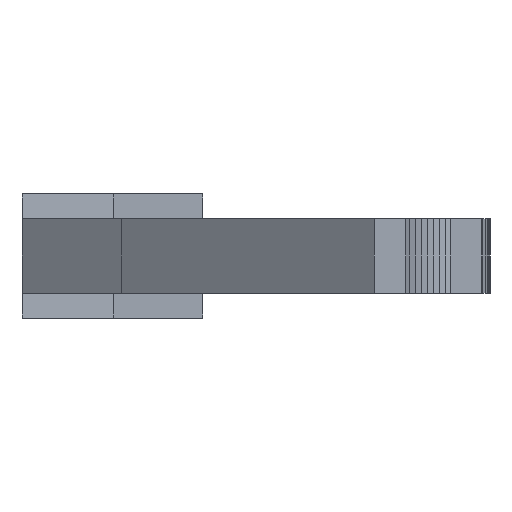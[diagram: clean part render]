
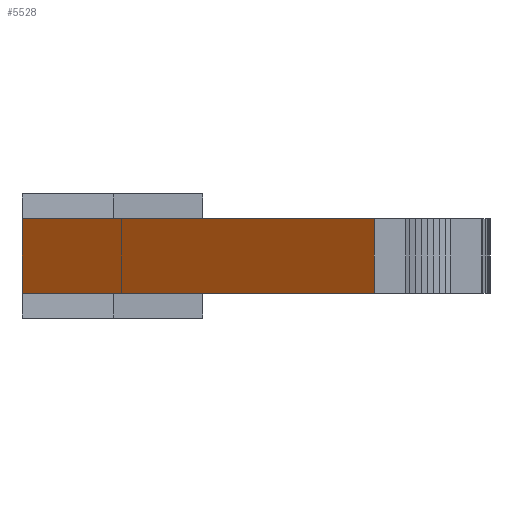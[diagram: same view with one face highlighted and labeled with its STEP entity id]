
A CAD part, left-side view. The second image highlights one B-rep face of the part: STEP entity #5528.
In plain terms, the highlighted planar face has unit normal (-0.79, 0.613, 0).
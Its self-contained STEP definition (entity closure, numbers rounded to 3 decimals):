
#44 = PLANE('',#45);
#45 = AXIS2_PLACEMENT_3D('',#46,#47,#48);
#46 = CARTESIAN_POINT('',(16.562,19.781,-4.5));
#47 = DIRECTION('',(-0.,0.,-1.));
#48 = DIRECTION('',(1.,0.,0.));
#100 = PLANE('',#101);
#101 = AXIS2_PLACEMENT_3D('',#102,#103,#104);
#102 = CARTESIAN_POINT('',(16.562,19.781,4.5));
#103 = DIRECTION('',(-0.,0.,-1.));
#104 = DIRECTION('',(1.,0.,0.));
#637 = VERTEX_POINT('',#638);
#638 = CARTESIAN_POINT('',(26.,49.,-4.5));
#664 = EDGE_CURVE('',#637,#665,#667,.T.);
#665 = VERTEX_POINT('',#666);
#666 = CARTESIAN_POINT('',(-7.,6.5,-4.5));
#667 = SURFACE_CURVE('',#668,(#672,#679),.PCURVE_S1.);
#668 = LINE('',#669,#670);
#669 = CARTESIAN_POINT('',(26.,49.,-4.5));
#670 = VECTOR('',#671,1.);
#671 = DIRECTION('',(-0.613,-0.79,-0.));
#672 = PCURVE('',#44,#673);
#673 = DEFINITIONAL_REPRESENTATION('',(#674),#678);
#674 = LINE('',#675,#676);
#675 = CARTESIAN_POINT('',(9.438,-29.219));
#676 = VECTOR('',#677,1.);
#677 = DIRECTION('',(-0.613,0.79));
#678 = ( GEOMETRIC_REPRESENTATION_CONTEXT(2) 
PARAMETRIC_REPRESENTATION_CONTEXT() REPRESENTATION_CONTEXT('2D SPACE',''
  ) );
#679 = PCURVE('',#680,#685);
#680 = PLANE('',#681);
#681 = AXIS2_PLACEMENT_3D('',#682,#683,#684);
#682 = CARTESIAN_POINT('',(26.,49.,-4.5));
#683 = DIRECTION('',(-0.79,0.613,0.));
#684 = DIRECTION('',(0.613,0.79,0.));
#685 = DEFINITIONAL_REPRESENTATION('',(#686),#690);
#686 = LINE('',#687,#688);
#687 = CARTESIAN_POINT('',(-0.,-0.));
#688 = VECTOR('',#689,1.);
#689 = DIRECTION('',(-1.,0.));
#690 = ( GEOMETRIC_REPRESENTATION_CONTEXT(2) 
PARAMETRIC_REPRESENTATION_CONTEXT() REPRESENTATION_CONTEXT('2D SPACE',''
  ) );
#708 = PLANE('',#709);
#709 = AXIS2_PLACEMENT_3D('',#710,#711,#712);
#710 = CARTESIAN_POINT('',(-7.,6.5,-4.5));
#711 = DIRECTION('',(-1.,-0.,-0.));
#712 = DIRECTION('',(0.,1.,0.));
#3301 = VERTEX_POINT('',#3302);
#3302 = CARTESIAN_POINT('',(26.,49.,4.5));
#3328 = EDGE_CURVE('',#3301,#3329,#3331,.T.);
#3329 = VERTEX_POINT('',#3330);
#3330 = CARTESIAN_POINT('',(-7.,6.5,4.5));
#3331 = SURFACE_CURVE('',#3332,(#3336,#3343),.PCURVE_S1.);
#3332 = LINE('',#3333,#3334);
#3333 = CARTESIAN_POINT('',(26.,49.,4.5));
#3334 = VECTOR('',#3335,1.);
#3335 = DIRECTION('',(-0.613,-0.79,-0.));
#3336 = PCURVE('',#100,#3337);
#3337 = DEFINITIONAL_REPRESENTATION('',(#3338),#3342);
#3338 = LINE('',#3339,#3340);
#3339 = CARTESIAN_POINT('',(9.438,-29.219));
#3340 = VECTOR('',#3341,1.);
#3341 = DIRECTION('',(-0.613,0.79));
#3342 = ( GEOMETRIC_REPRESENTATION_CONTEXT(2) 
PARAMETRIC_REPRESENTATION_CONTEXT() REPRESENTATION_CONTEXT('2D SPACE',''
  ) );
#3343 = PCURVE('',#680,#3344);
#3344 = DEFINITIONAL_REPRESENTATION('',(#3345),#3349);
#3345 = LINE('',#3346,#3347);
#3346 = CARTESIAN_POINT('',(-0.,-9.));
#3347 = VECTOR('',#3348,1.);
#3348 = DIRECTION('',(-1.,0.));
#3349 = ( GEOMETRIC_REPRESENTATION_CONTEXT(2) 
PARAMETRIC_REPRESENTATION_CONTEXT() REPRESENTATION_CONTEXT('2D SPACE',''
  ) );
#5479 = EDGE_CURVE('',#665,#3329,#5480,.T.);
#5480 = SURFACE_CURVE('',#5481,(#5485,#5492),.PCURVE_S1.);
#5481 = LINE('',#5482,#5483);
#5482 = CARTESIAN_POINT('',(-7.,6.5,-4.5));
#5483 = VECTOR('',#5484,1.);
#5484 = DIRECTION('',(-0.,-0.,1.));
#5485 = PCURVE('',#708,#5486);
#5486 = DEFINITIONAL_REPRESENTATION('',(#5487),#5491);
#5487 = LINE('',#5488,#5489);
#5488 = CARTESIAN_POINT('',(-0.,-0.));
#5489 = VECTOR('',#5490,1.);
#5490 = DIRECTION('',(-0.,-1.));
#5491 = ( GEOMETRIC_REPRESENTATION_CONTEXT(2) 
PARAMETRIC_REPRESENTATION_CONTEXT() REPRESENTATION_CONTEXT('2D SPACE',''
  ) );
#5492 = PCURVE('',#680,#5493);
#5493 = DEFINITIONAL_REPRESENTATION('',(#5494),#5498);
#5494 = LINE('',#5495,#5496);
#5495 = CARTESIAN_POINT('',(-53.808,0.));
#5496 = VECTOR('',#5497,1.);
#5497 = DIRECTION('',(-0.,-1.));
#5498 = ( GEOMETRIC_REPRESENTATION_CONTEXT(2) 
PARAMETRIC_REPRESENTATION_CONTEXT() REPRESENTATION_CONTEXT('2D SPACE',''
  ) );
#5528 = ADVANCED_FACE('',(#5529),#680,.T.);
#5529 = FACE_BOUND('',#5530,.F.);
#5530 = EDGE_LOOP('',(#5531,#5557,#5558,#5559));
#5531 = ORIENTED_EDGE('',*,*,#5532,.T.);
#5532 = EDGE_CURVE('',#637,#3301,#5533,.T.);
#5533 = SURFACE_CURVE('',#5534,(#5538,#5545),.PCURVE_S1.);
#5534 = LINE('',#5535,#5536);
#5535 = CARTESIAN_POINT('',(26.,49.,-4.5));
#5536 = VECTOR('',#5537,1.);
#5537 = DIRECTION('',(-0.,-0.,1.));
#5538 = PCURVE('',#680,#5539);
#5539 = DEFINITIONAL_REPRESENTATION('',(#5540),#5544);
#5540 = LINE('',#5541,#5542);
#5541 = CARTESIAN_POINT('',(-0.,-0.));
#5542 = VECTOR('',#5543,1.);
#5543 = DIRECTION('',(-0.,-1.));
#5544 = ( GEOMETRIC_REPRESENTATION_CONTEXT(2) 
PARAMETRIC_REPRESENTATION_CONTEXT() REPRESENTATION_CONTEXT('2D SPACE',''
  ) );
#5545 = PCURVE('',#5546,#5551);
#5546 = PLANE('',#5547);
#5547 = AXIS2_PLACEMENT_3D('',#5548,#5549,#5550);
#5548 = CARTESIAN_POINT('',(36.,49.,-4.5));
#5549 = DIRECTION('',(-0.,1.,-0.));
#5550 = DIRECTION('',(1.,0.,0.));
#5551 = DEFINITIONAL_REPRESENTATION('',(#5552),#5556);
#5552 = LINE('',#5553,#5554);
#5553 = CARTESIAN_POINT('',(-10.,0.));
#5554 = VECTOR('',#5555,1.);
#5555 = DIRECTION('',(-0.,-1.));
#5556 = ( GEOMETRIC_REPRESENTATION_CONTEXT(2) 
PARAMETRIC_REPRESENTATION_CONTEXT() REPRESENTATION_CONTEXT('2D SPACE',''
  ) );
#5557 = ORIENTED_EDGE('',*,*,#3328,.T.);
#5558 = ORIENTED_EDGE('',*,*,#5479,.F.);
#5559 = ORIENTED_EDGE('',*,*,#664,.F.);
